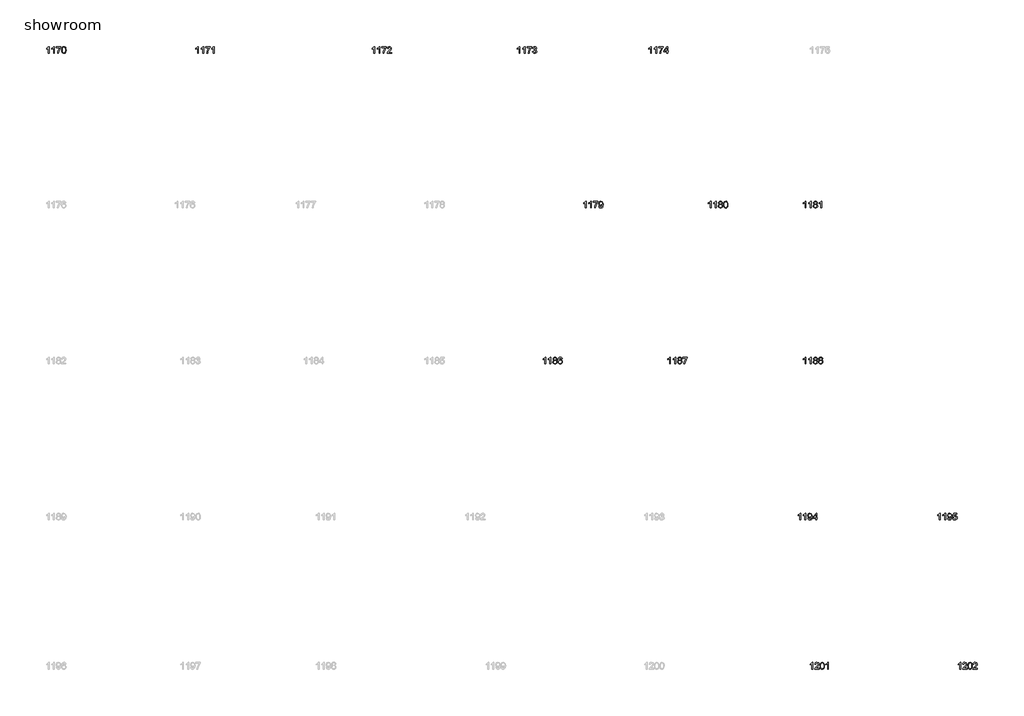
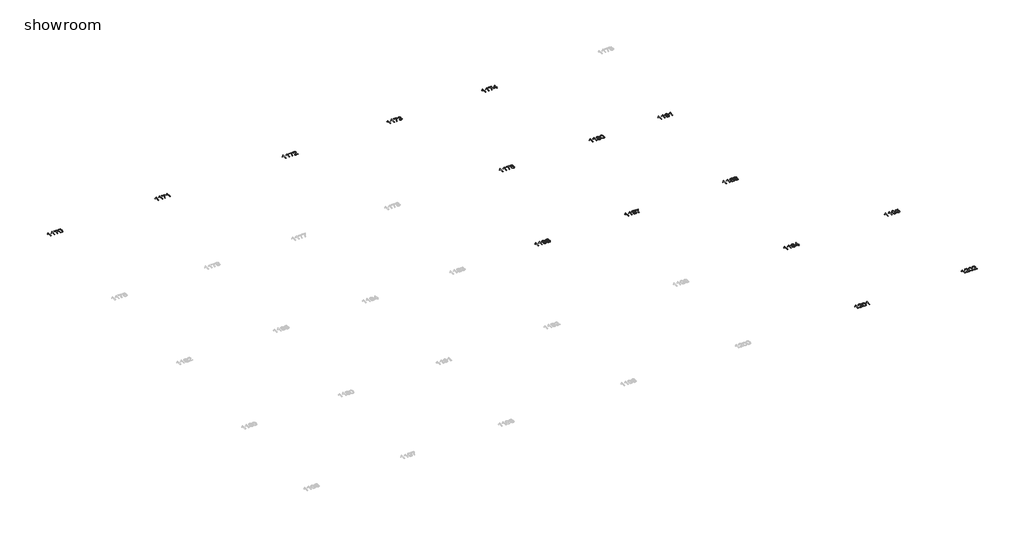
# One storey, part 3 of 5: 15 proxies.
"""IFC4 building model written with IfcOpenShell, lengths in millimetres."""

import ifcopenshell
import ifcopenshell.guid

model = None  # the IFC model being written
_history = None  # IfcOwnerHistory: only IFC2X3 demands one
_inside = {}  # id of a spatial element -> (the spatial element, [elements in it])
_under = {}  # id of a project, library or spatial element -> (it, [spatial elements below it])
_declared = {}  # id of a project -> (the project, [libraries it declares])
_typed = {}  # id of a type object -> (the type object, [elements of that type])
_made_of = {}  # id of a material, layer set ... -> (it, [elements and type objects made of it])


def new_model(schema):
    """Start an empty IFC model of exactly this schema.

    Asked for "IFC4X3", IfcOpenShell would pick the latest addendum, in which some entities
    have other attributes; the version numbers below select the first issue.
    IFC2X3 requires an IfcOwnerHistory on every rooted entity: one is made here for all.
    """
    global model, _history
    if schema == "IFC4X3":
        model = ifcopenshell.file(schema_version=(4, 3, 0, 0))
    else:
        model = ifcopenshell.file(schema=schema)
    _inside.clear()
    _under.clear()
    _declared.clear()
    _typed.clear()
    _made_of.clear()
    _history = None
    if model.schema == "IFC2X3":
        org = make("IfcOrganization", Name="unknown")
        user = make(
            "IfcPersonAndOrganization",
            ThePerson=make("IfcPerson", FamilyName="unknown"),
            TheOrganization=org,
        )
        app = make(
            "IfcApplication",
            ApplicationDeveloper=org,
            Version="unknown",
            ApplicationFullName="unknown",
            ApplicationIdentifier="unknown",
        )
        _history = make(
            "IfcOwnerHistory",
            OwningUser=user,
            OwningApplication=app,
            ChangeAction="ADDED",
            CreationDate=0,
        )
    return model


def make(cls, **values):
    """One entity of the class cls with the attributes given. An attribute that is None is left unset."""
    return model.create_entity(
        cls, **{name: value for name, value in values.items() if value is not None}
    )


def rooted(cls, **values):
    """An entity with a GlobalId (a new one), such as an element, a storey or a relation."""
    return make(cls, GlobalId=ifcopenshell.guid.new(), OwnerHistory=_history, **values)


def si_unit(unit_type, name, prefix=None):
    """IfcSIUnit, for example si_unit("LENGTHUNIT", "METRE", prefix="MILLI")."""
    return make("IfcSIUnit", UnitType=unit_type, Prefix=prefix, Name=name)


def assignment(units):
    """IfcUnitAssignment: the units of a project."""
    return None if units is None else make("IfcUnitAssignment", Units=units)


def point(xyz):
    """IfcCartesianPoint."""
    return None if xyz is None else make("IfcCartesianPoint", Coordinates=xyz)


def direction(xyz):
    """IfcDirection."""
    return None if xyz is None else make("IfcDirection", DirectionRatios=xyz)


def frame(location, z_axis=None, x_axis=None):
    """IfcAxis2Placement3D, a coordinate frame: its origin and axes. An axis left out is left unset."""
    return make(
        "IfcAxis2Placement3D",
        Location=point(location),
        Axis=direction(z_axis),
        RefDirection=direction(x_axis),
    )


def origin():
    """The frame at (0, 0, 0) with its axes left unset."""
    return frame((0.0, 0.0, 0.0))


def origin_with_axes():
    """The frame at (0, 0, 0) with the z axis (0, 0, 1) and the x axis (1, 0, 0) written out."""
    return frame((0.0, 0.0, 0.0), z_axis=(0.0, 0.0, 1.0), x_axis=(1.0, 0.0, 0.0))


def place(relative_to, where):
    """IfcLocalPlacement: puts the frame where relative to a parent placement (None: the world)."""
    return make(
        "IfcLocalPlacement", PlacementRelTo=relative_to, RelativePlacement=where
    )


def context(
    kind, dimensions, precision=None, world=None, true_north=None, identifier=None
):
    """IfcGeometricRepresentationContext, for example the 3D "Model" context."""
    return make(
        "IfcGeometricRepresentationContext",
        ContextIdentifier=identifier,
        ContextType=kind,
        CoordinateSpaceDimension=dimensions,
        Precision=precision,
        WorldCoordinateSystem=world,
        TrueNorth=true_north,
    )


def project(units=None, contexts=None):
    """IfcProject with its units and contexts."""
    return rooted(
        "IfcProject",
        Name="project",
        RepresentationContexts=contexts,
        UnitsInContext=assignment(units),
    )


def spatial(cls, under=None, at=None, **own):
    """A site, building, storey or space (cls), placed at a placement, below another one or the project."""
    s = rooted(cls, ObjectPlacement=at, **own)
    if under is not None:
        _under.setdefault(under.id(), (under, []))[1].append(s)
    return s


def polyline(points):
    """IfcPolyline through the points."""
    return make("IfcPolyline", Points=[point(p) for p in points])


def outline(outer, holes=None, kind="AREA"):
    """IfcArbitraryClosedProfileDef: a profile drawn as a closed curve; with holes, ...WithVoids."""
    if holes is None:
        return make("IfcArbitraryClosedProfileDef", ProfileType=kind, OuterCurve=outer)
    return make(
        "IfcArbitraryProfileDefWithVoids",
        ProfileType=kind,
        OuterCurve=outer,
        InnerCurves=holes,
    )


def extrude(swept, where, along, depth):
    """IfcExtrudedAreaSolid: the profile swept, set in the frame where, extruded along a direction by depth."""
    return make(
        "IfcExtrudedAreaSolid",
        SweptArea=swept,
        Position=where,
        ExtrudedDirection=direction(along),
        Depth=depth,
    )


def shape(context_of_items, identifier, shape_type, items):
    """IfcShapeRepresentation: the items that make up one representation, for example the "Body"."""
    return make(
        "IfcShapeRepresentation",
        ContextOfItems=context_of_items,
        RepresentationIdentifier=identifier,
        RepresentationType=shape_type,
        Items=items,
    )


def made_of(thing, what):
    """Note that an element or type object is made of a material, layer set ...; save() writes the relation."""
    if what is not None:
        _made_of.setdefault(what.id(), (what, []))[1].append(thing)
    return thing


def element(
    cls,
    number,
    at=None,
    inside=None,
    cuts=None,
    type_object=None,
    material=None,
    context=None,
    identifier="Body",
    shape_type=None,
    held_by="IfcProductDefinitionShape",
    body=None,
    shapes=None,
    **own,
):
    """One element of the class cls, such as IfcWall. Its Tag is "e" and its number.

    at: its placement. inside: the storey or other place that contains it. cuts: it is an
    opening in that element (IfcRelVoidsElement). A single representation is given by context,
    identifier, shape_type and body (its items); several are given by shapes. held_by: the class
    of the entity that holds the representations. save() writes the other relations.
    """
    e = rooted(cls, Tag="e%d" % number, ObjectPlacement=at, **own)
    if body is not None:
        shapes = [shape(context, identifier, shape_type, body)]
    if shapes is not None:
        e.Representation = make(held_by, Representations=shapes)
    if inside is not None:
        _inside.setdefault(inside.id(), (inside, []))[1].append(e)
    if cuts is not None:
        rooted(
            "IfcRelVoidsElement", RelatingBuildingElement=cuts, RelatedOpeningElement=e
        )
    if type_object is not None:
        _typed.setdefault(type_object.id(), (type_object, []))[1].append(e)
    return made_of(e, material)


def aggregate(whole, parts):
    """IfcRelAggregates: a whole, such as a stair, and the parts it consists of."""
    return rooted("IfcRelAggregates", RelatingObject=whole, RelatedObjects=parts)


def save(model, path):
    """Write the relations noted so far, then the file.

    IfcRelAggregates (storeys below a building ...), IfcRelContainedInSpatialStructure (elements
    in a storey), IfcRelDefinesByType, IfcRelAssociatesMaterial and IfcRelDeclares: one each for
    every whole, place, type object, material and project.
    """
    for whole, parts in _under.values():
        aggregate(whole, parts)
    for where, things in _inside.values():
        rooted(
            "IfcRelContainedInSpatialStructure",
            RelatedElements=things,
            RelatingStructure=where,
        )
    for kind, things in _typed.values():
        rooted("IfcRelDefinesByType", RelatedObjects=things, RelatingType=kind)
    for what, things in _made_of.values():
        rooted("IfcRelAssociatesMaterial", RelatedObjects=things, RelatingMaterial=what)
    for by, libraries in _declared.values():
        rooted("IfcRelDeclares", RelatingContext=by, RelatedDefinitions=libraries)
    model.write(path)


model = new_model("IFC4")

# Units and contexts
model_context = context("Model", 3, world=origin())
ifc_project = project(units=[si_unit("LENGTHUNIT", "METRE", prefix="MILLI")], contexts=[model_context])

# Site, building, storey
site = spatial("IfcSite", under=ifc_project)
building = spatial("IfcBuilding", under=site)
storey = spatial("IfcBuildingStorey", under=building, Name="showroom", Elevation=0.0)

# Proxies
placement = place(None, origin())
element("IfcBuildingElementProxy", 1, Name="100mm Arial", ObjectType="100mm Arial", at=placement, inside=storey, context=model_context, shape_type="SweptSolid", body=[
    extrude(outline(polyline([(-1708.1109609, 1535.1020807), (-1720.6679996, 1535.1020807), (-1720.6679996, 1613.3873692), (-1732.5628508, 1604.9138206), (-1745.7820772, 1598.5739876), (-1745.7820772, 1610.4443133), (-1727.3757147, 1622.1920117), (-1716.2043648, 1635.5583908), (-1708.1109609, 1635.5583908), (-1708.1109609, 1535.1020807)])), origin_with_axes(), (0.0, 0.0, 1.0), 2.0),
    extrude(outline(polyline([(-1631.1990984, 1535.1020807), (-1643.7561372, 1535.1020807), (-1643.7561372, 1613.3873692), (-1655.6509884, 1604.9138206), (-1668.8702147, 1598.5739876), (-1668.8702147, 1610.4443133), (-1650.4638522, 1622.1920117), (-1639.2925023, 1635.5583908), (-1631.1990984, 1635.5583908), (-1631.1990984, 1535.1020807)])), origin_with_axes(), (0.0, 0.0, 1.0), 2.0),
    extrude(outline(polyline([(-1601.3761313, 1621.4317222), (-1601.3761313, 1633.988761), (-1535.4516778, 1633.988761), (-1535.4516778, 1623.8352179), (-1554.1523459, 1596.8204167), (-1568.4629555, 1562.3989247), (-1573.1227941, 1535.1020807), (-1585.6798329, 1535.1020807), (-1580.6889005, 1563.4289943), (-1566.9914275, 1595.4469906), (-1548.0087166, 1621.4317222), (-1601.3761313, 1621.4317222)])), origin_with_axes(), (0.0, 0.0, 1.0), 2.0),
    extrude(outline(polyline([(-1524.4642689, 1584.5208954), (-1520.7731862, 1613.4241574), (-1509.8103027, 1630.0892118), (-1491.5020421, 1635.5583908), (-1476.8358132, 1632.3210293), (-1466.7067956, 1622.9890893), (-1460.8206837, 1608.1266567), (-1458.5398153, 1584.5208954), (-1462.1941098, 1555.7402606), (-1473.1202051, 1539.038418), (-1481.3515647, 1534.9089426), (-1491.5020421, 1533.5324508), (-1504.5495902, 1535.9236838), (-1514.4578786, 1543.0973827), (-1521.9626713, 1560.0873995), (-1524.4642689, 1584.5208954)]), holes=[polyline([(-1511.9072301, 1584.5454208), (-1510.4357021, 1564.7932234), (-1506.0211182, 1553.3612904), (-1499.4482932, 1547.9074398), (-1491.5020421, 1546.0894896), (-1483.555791, 1547.9135712), (-1476.982966, 1553.3858158), (-1472.5683821, 1564.8238802), (-1471.0968541, 1584.5454208), (-1472.5193312, 1603.8530942), (-1476.7867623, 1615.373932), (-1483.3473246, 1621.094497), (-1491.6491949, 1623.0013521), (-1499.5096069, 1621.3213576), (-1505.8249145, 1616.2813743), (-1510.3866512, 1604.0431666), (-1511.9072301, 1584.5454208)])]), origin_with_axes(), (0.0, 0.0, 1.0), 2.0),
])
element("IfcBuildingElementProxy", 2, Name="100mm Arial", ObjectType="100mm Arial", at=placement, inside=storey, context=model_context, shape_type="SweptSolid", body=[
    extrude(outline(polyline([(491.8890391, 1535.1020807), (479.3320004, 1535.1020807), (479.3320004, 1613.3873692), (467.4371492, 1604.9138206), (454.2179228, 1598.5739876), (454.2179228, 1610.4443133), (472.6242853, 1622.1920117), (483.7956352, 1635.5583908), (491.8890391, 1635.5583908), (491.8890391, 1535.1020807)])), origin_with_axes(), (0.0, 0.0, 1.0), 2.0),
    extrude(outline(polyline([(568.8009016, 1535.1020807), (556.2438628, 1535.1020807), (556.2438628, 1613.3873692), (544.3490116, 1604.9138206), (531.1297853, 1598.5739876), (531.1297853, 1610.4443133), (549.5361478, 1622.1920117), (560.7074977, 1635.5583908), (568.8009016, 1635.5583908), (568.8009016, 1535.1020807)])), origin_with_axes(), (0.0, 0.0, 1.0), 2.0),
    extrude(outline(polyline([(598.6238687, 1621.4317222), (598.6238687, 1633.988761), (664.5483222, 1633.988761), (664.5483222, 1623.8352179), (645.8476541, 1596.8204167), (631.5370445, 1562.3989247), (626.8772059, 1535.1020807), (614.3201671, 1535.1020807), (619.3110995, 1563.4289943), (633.0085725, 1595.4469906), (651.9912834, 1621.4317222), (598.6238687, 1621.4317222)])), origin_with_axes(), (0.0, 0.0, 1.0), 2.0),
    extrude(outline(polyline([(722.6246265, 1535.1020807), (710.0675877, 1535.1020807), (710.0675877, 1613.3873692), (698.1727366, 1604.9138206), (684.9535102, 1598.5739876), (684.9535102, 1610.4443133), (703.3598727, 1622.1920117), (714.5312226, 1635.5583908), (722.6246265, 1635.5583908), (722.6246265, 1535.1020807)])), origin_with_axes(), (0.0, 0.0, 1.0), 2.0),
])
element("IfcBuildingElementProxy", 3, Name="100mm Arial", ObjectType="100mm Arial", at=placement, inside=storey, context=model_context, shape_type="SweptSolid", body=[
    extrude(outline(polyline([(3091.8890391, 1535.1020807), (3079.3320004, 1535.1020807), (3079.3320004, 1613.3873692), (3067.4371492, 1604.9138206), (3054.2179228, 1598.5739876), (3054.2179228, 1610.4443133), (3072.6242853, 1622.1920117), (3083.7956352, 1635.5583908), (3091.8890391, 1635.5583908), (3091.8890391, 1535.1020807)])), origin_with_axes(), (0.0, 0.0, 1.0), 2.0),
    extrude(outline(polyline([(3168.8009016, 1535.1020807), (3156.2438628, 1535.1020807), (3156.2438628, 1613.3873692), (3144.3490116, 1604.9138206), (3131.1297853, 1598.5739876), (3131.1297853, 1610.4443133), (3149.5361478, 1622.1920117), (3160.7074977, 1635.5583908), (3168.8009016, 1635.5583908), (3168.8009016, 1535.1020807)])), origin_with_axes(), (0.0, 0.0, 1.0), 2.0),
    extrude(outline(polyline([(3198.6238687, 1621.4317222), (3198.6238687, 1633.988761), (3264.5483222, 1633.988761), (3264.5483222, 1623.8352179), (3245.8476541, 1596.8204167), (3231.5370445, 1562.3989247), (3226.8772059, 1535.1020807), (3214.3201671, 1535.1020807), (3219.3110995, 1563.4289943), (3233.0085725, 1595.4469906), (3251.9912834, 1621.4317222), (3198.6238687, 1621.4317222)])), origin_with_axes(), (0.0, 0.0, 1.0), 2.0),
    extrude(outline(polyline([(3339.8905548, 1547.6591194), (3339.8905548, 1535.1020807), (3273.9661013, 1535.1020807), (3275.3150019, 1543.7595703), (3282.942422, 1557.0891613), (3298.6632459, 1571.6450255), (3320.3437581, 1592.5652483), (3325.7638862, 1606.7900188), (3320.6503265, 1618.3047252), (3307.29621, 1623.0013521), (3293.3780079, 1618.4150898), (3288.0927699, 1605.7354237), (3275.5357311, 1607.3050536), (3278.5799546, 1619.4512908), (3285.1619767, 1628.3233782), (3294.9384407, 1633.7496377), (3307.5659902, 1635.5583908), (3320.2855101, 1633.5473026), (3330.0435801, 1627.5140379), (3336.2515887, 1618.500929), (3338.320925, 1607.5503083), (3336.0891075, 1595.6431943), (3328.670154, 1583.3314102), (3310.6807244, 1566.1267956), (3296.2352247, 1554.0480034), (3290.569842, 1547.6591194), (3339.8905548, 1547.6591194)])), origin_with_axes(), (0.0, 0.0, 1.0), 2.0),
])
element("IfcBuildingElementProxy", 4, Name="100mm Arial", ObjectType="100mm Arial", at=placement, inside=storey, context=model_context, shape_type="SweptSolid", body=[
    extrude(outline(polyline([(5231.8890391, 1535.1020807), (5219.3320004, 1535.1020807), (5219.3320004, 1613.3873692), (5207.4371492, 1604.9138206), (5194.2179228, 1598.5739876), (5194.2179228, 1610.4443133), (5212.6242853, 1622.1920117), (5223.7956352, 1635.5583908), (5231.8890391, 1635.5583908), (5231.8890391, 1535.1020807)])), origin_with_axes(), (0.0, 0.0, 1.0), 2.0),
    extrude(outline(polyline([(5308.8009016, 1535.1020807), (5296.2438628, 1535.1020807), (5296.2438628, 1613.3873692), (5284.3490116, 1604.9138206), (5271.1297853, 1598.5739876), (5271.1297853, 1610.4443133), (5289.5361478, 1622.1920117), (5300.7074977, 1635.5583908), (5308.8009016, 1635.5583908), (5308.8009016, 1535.1020807)])), origin_with_axes(), (0.0, 0.0, 1.0), 2.0),
    extrude(outline(polyline([(5338.6238687, 1621.4317222), (5338.6238687, 1633.988761), (5404.5483222, 1633.988761), (5404.5483222, 1623.8352179), (5385.8476541, 1596.8204167), (5371.5370445, 1562.3989247), (5366.8772059, 1535.1020807), (5354.3201671, 1535.1020807), (5359.3110995, 1563.4289943), (5373.0085725, 1595.4469906), (5391.9912834, 1621.4317222), (5338.6238687, 1621.4317222)])), origin_with_axes(), (0.0, 0.0, 1.0), 2.0),
    extrude(outline(polyline([(5415.5357311, 1561.7857881), (5428.0927699, 1563.3554179), (5435.0212141, 1550.1361915), (5447.9829231, 1546.0894896), (5456.5913618, 1547.4813098), (5463.2377632, 1551.6567705), (5468.9031459, 1565.4400825), (5463.2868141, 1578.426317), (5449.0129927, 1583.5644022), (5440.2083503, 1582.1909761), (5441.6063018, 1594.7480148), (5443.6173901, 1594.600862), (5457.866686, 1598.2061056), (5462.6123638, 1602.7801051), (5464.1942563, 1609.2916164), (5459.6079941, 1619.1140656), (5447.7867194, 1623.0013521), (5435.8182918, 1619.0772774), (5429.6623997, 1607.3050536), (5417.105361, 1608.8746834), (5420.802575, 1620.1502666), (5427.3815314, 1628.5686329), (5436.3823775, 1633.8109513), (5447.345261, 1635.5583908), (5462.4897364, 1632.1125628), (5473.0847379, 1622.6947837), (5476.7512951, 1610.0273804), (5473.2686789, 1598.4513602), (5462.967983, 1590.1372272), (5476.6531933, 1581.5533139), (5481.4601847, 1565.2193533), (5479.056689, 1552.9811456), (5471.8462018, 1542.7540262), (5460.9630262, 1535.8378447), (5447.5414647, 1533.5324508), (5435.4013589, 1535.5006195), (5425.5175959, 1541.4051255), (5418.644334, 1550.4366285), (5415.5357311, 1561.7857881)])), origin_with_axes(), (0.0, 0.0, 1.0), 2.0),
])
element("IfcBuildingElementProxy", 5, Name="100mm Arial", ObjectType="100mm Arial", at=placement, inside=storey, context=model_context, shape_type="SweptSolid", body=[
    extrude(outline(polyline([(7171.8890391, 1535.1020807), (7159.3320004, 1535.1020807), (7159.3320004, 1613.3873692), (7147.4371492, 1604.9138206), (7134.2179228, 1598.5739876), (7134.2179228, 1610.4443133), (7152.6242853, 1622.1920117), (7163.7956352, 1635.5583908), (7171.8890391, 1635.5583908), (7171.8890391, 1535.1020807)])), origin_with_axes(), (0.0, 0.0, 1.0), 2.0),
    extrude(outline(polyline([(7248.8009016, 1535.1020807), (7236.2438628, 1535.1020807), (7236.2438628, 1613.3873692), (7224.3490116, 1604.9138206), (7211.1297853, 1598.5739876), (7211.1297853, 1610.4443133), (7229.5361478, 1622.1920117), (7240.7074977, 1635.5583908), (7248.8009016, 1635.5583908), (7248.8009016, 1535.1020807)])), origin_with_axes(), (0.0, 0.0, 1.0), 2.0),
    extrude(outline(polyline([(7278.6238687, 1621.4317222), (7278.6238687, 1633.988761), (7344.5483222, 1633.988761), (7344.5483222, 1623.8352179), (7325.8476541, 1596.8204167), (7311.5370445, 1562.3989247), (7306.8772059, 1535.1020807), (7294.3201671, 1535.1020807), (7299.3110995, 1563.4289943), (7313.0085725, 1595.4469906), (7331.9912834, 1621.4317222), (7278.6238687, 1621.4317222)])), origin_with_axes(), (0.0, 0.0, 1.0), 2.0),
    extrude(outline(polyline([(7396.3461071, 1535.1020807), (7396.3461071, 1558.6465284), (7350.8268416, 1558.6465284), (7350.8268416, 1571.2035671), (7399.4853668, 1633.988761), (7408.9031459, 1633.988761), (7408.9031459, 1571.2035671), (7421.4601847, 1571.2035671), (7421.4601847, 1558.6465284), (7408.9031459, 1558.6465284), (7408.9031459, 1535.1020807), (7396.3461071, 1535.1020807)]), holes=[polyline([(7396.3461071, 1571.2035671), (7396.3461071, 1610.0028549), (7366.2778854, 1571.2035671), (7396.3461071, 1571.2035671)])]), origin_with_axes(), (0.0, 0.0, 1.0), 2.0),
])
element("IfcBuildingElementProxy", 6, Name="100mm Arial", ObjectType="100mm Arial", at=placement, inside=storey, context=model_context, shape_type="SweptSolid", body=[
    extrude(outline(polyline([(6210.3304099, -744.8979193), (6197.7733711, -744.8979193), (6197.7733711, -666.6126308), (6185.8785199, -675.0861794), (6172.6592936, -681.4260124), (6172.6592936, -669.5556867), (6191.0656561, -657.8079883), (6202.237006, -644.4416092), (6210.3304099, -644.4416092), (6210.3304099, -744.8979193)])), origin_with_axes(), (0.0, 0.0, 1.0), 2.0),
    extrude(outline(polyline([(6287.2422723, -744.8979193), (6274.6852336, -744.8979193), (6274.6852336, -666.6126308), (6262.7903824, -675.0861794), (6249.571156, -681.4260124), (6249.571156, -669.5556867), (6267.9775185, -657.8079883), (6279.1488684, -644.4416092), (6287.2422723, -644.4416092), (6287.2422723, -744.8979193)])), origin_with_axes(), (0.0, 0.0, 1.0), 2.0),
    extrude(outline(polyline([(6317.0652394, -658.5682778), (6317.0652394, -646.011239), (6382.9896929, -646.011239), (6382.9896929, -656.1647821), (6364.2890249, -683.1795833), (6349.9784152, -717.6010753), (6345.3185766, -744.8979193), (6332.7615379, -744.8979193), (6337.7524703, -716.5710057), (6351.4499432, -684.5530094), (6370.4326542, -658.5682778), (6317.0652394, -658.5682778)])), origin_with_axes(), (0.0, 0.0, 1.0), 2.0),
    extrude(outline(polyline([(6395.5467317, -719.7838418), (6408.1037705, -718.2142119), (6413.7446277, -730.1949023), (6424.4377311, -733.9105104), (6434.6035369, -731.5192774), (6441.4951929, -725.1303935), (6445.6032085, -714.2165609), (6447.418093, -699.6484339), (6447.3445166, -697.1958873), (6437.3013382, -706.7117682), (6423.5302888, -710.3660627), (6412.0799617, -708.1342453), (6402.5487524, -701.438793), (6396.1200145, -691.0951775), (6393.9771019, -677.9188707), (6396.2242477, -664.3072369), (6402.9656853, -653.6386591), (6413.0916372, -646.7408716), (6425.4923261, -644.4416092), (6443.3836538, -649.690059), (6455.6954379, -664.6505934), (6459.9015554, -692.7567779), (6455.7077007, -723.2541953), (6450.4929734, -733.2452571), (6443.236501, -740.5323863), (6434.2509833, -744.9837585), (6423.8491199, -746.4675492), (6413.113097, -744.717044), (6404.5475779, -739.4655285), (6398.5572327, -731.0440965), (6395.5467317, -719.7838418)]), holes=[polyline([(6447.3445166, -677.6245651), (6445.9894846, -669.1142283), (6441.9243886, -662.5659288), (6435.6152124, -658.3904682), (6427.5279398, -656.9986479), (6419.1402303, -658.4977671), (6412.4202526, -662.9951245), (6408.0056686, -669.8775835), (6406.5341406, -678.5320074), (6407.9259609, -686.2912518), (6412.1014215, -692.4502095), (6418.6558524, -696.4693203), (6427.1845833, -697.8090239), (6441.6668712, -692.4502095), (6445.9251053, -686.0643912), (6447.3445166, -677.6245651)])]), origin_with_axes(), (0.0, 0.0, 1.0), 2.0),
])
element("IfcBuildingElementProxy", 7, Name="100mm Arial", ObjectType="100mm Arial", at=placement, inside=storey, context=model_context, shape_type="SweptSolid", body=[
    extrude(outline(polyline([(8050.3304099, -744.8979193), (8037.7733711, -744.8979193), (8037.7733711, -666.6126308), (8025.8785199, -675.0861794), (8012.6592936, -681.4260124), (8012.6592936, -669.5556867), (8031.0656561, -657.8079883), (8042.237006, -644.4416092), (8050.3304099, -644.4416092), (8050.3304099, -744.8979193)])), origin_with_axes(), (0.0, 0.0, 1.0), 2.0),
    extrude(outline(polyline([(8127.2422723, -744.8979193), (8114.6852336, -744.8979193), (8114.6852336, -666.6126308), (8102.7903824, -675.0861794), (8089.571156, -681.4260124), (8089.571156, -669.5556867), (8107.9775185, -657.8079883), (8119.1488684, -644.4416092), (8127.2422723, -644.4416092), (8127.2422723, -744.8979193)])), origin_with_axes(), (0.0, 0.0, 1.0), 2.0),
    extrude(outline(polyline([(8175.3612373, -689.5684673), (8163.9201073, -681.769369), (8160.2044991, -669.6292631), (8162.2278501, -659.8129452), (8168.297903, -651.7011472), (8177.7340762, -646.2564937), (8189.8557879, -644.4416092), (8202.0510761, -646.2994133), (8211.6098766, -651.8728255), (8217.7902941, -660.1133822), (8219.8504333, -669.9726196), (8216.183876, -681.8061572), (8205.061577, -689.5684673), (8218.4156935, -699.415442), (8222.9896929, -715.6635634), (8220.7210873, -727.6687792), (8213.9152704, -737.5893304), (8203.4061081, -744.2479945), (8190.0274662, -746.4675492), (8176.6488243, -744.2387974), (8166.139662, -737.5525422), (8159.333845, -727.5369548), (8157.0652394, -715.3202069), (8161.8231799, -698.6919407), (8175.3612373, -689.5684673)]), holes=[polyline([(8169.6222782, -714.8787485), (8171.7192056, -724.3333158), (8179.1381591, -731.4089128), (8190.125568, -733.9105104), (8198.6726931, -732.5953323), (8205.0861025, -728.6497979), (8210.4326542, -715.271156), (8204.9144242, -701.6349967), (8198.353862, -697.5882947), (8189.7086351, -696.2393941), (8181.2810717, -697.5699006), (8174.9320416, -701.5614203), (8169.6222782, -714.8787485)]), polyline([(8172.7615379, -669.9971451), (8177.21291, -679.8563826), (8190.174619, -683.6823553), (8202.8788105, -679.880908), (8207.2933945, -670.5612308), (8202.7316577, -660.9104598), (8190.0274662, -656.9986479), (8177.2864864, -660.8246207), (8172.7615379, -669.9971451)])]), origin_with_axes(), (0.0, 0.0, 1.0), 2.0),
    extrude(outline(polyline([(8233.9771019, -695.4791046), (8237.6681846, -666.5758426), (8248.631068, -649.9107882), (8266.9393286, -644.4416092), (8281.6055575, -647.6789707), (8291.7345751, -657.0109107), (8297.620687, -671.8733433), (8299.9015554, -695.4791046), (8296.2472609, -724.2597394), (8285.3211657, -740.961582), (8277.089806, -745.0910574), (8266.9393286, -746.4675492), (8253.8917805, -744.0763162), (8243.9834921, -736.9026173), (8236.4786994, -719.9126005), (8233.9771019, -695.4791046)]), holes=[polyline([(8246.5341406, -695.4545792), (8248.0056686, -715.2067766), (8252.4202526, -726.6387096), (8258.9930775, -732.0925602), (8266.9393286, -733.9105104), (8274.8855797, -732.0864288), (8281.4584047, -726.6141842), (8285.8729887, -715.1761198), (8287.3445166, -695.4545792), (8285.9220396, -676.1469058), (8281.6546084, -664.626068), (8275.0940462, -658.905503), (8266.7921758, -656.9986479), (8258.9317639, -658.6786424), (8252.6164563, -663.7186257), (8248.0547195, -675.9568334), (8246.5341406, -695.4545792)])]), origin_with_axes(), (0.0, 0.0, 1.0), 2.0),
])
element("IfcBuildingElementProxy", 8, Name="100mm Arial", ObjectType="100mm Arial", at=placement, inside=storey, context=model_context, shape_type="SweptSolid", body=[
    extrude(outline(polyline([(9450.3304099, -744.8979193), (9437.7733711, -744.8979193), (9437.7733711, -666.6126308), (9425.8785199, -675.0861794), (9412.6592936, -681.4260124), (9412.6592936, -669.5556867), (9431.0656561, -657.8079883), (9442.237006, -644.4416092), (9450.3304099, -644.4416092), (9450.3304099, -744.8979193)])), origin_with_axes(), (0.0, 0.0, 1.0), 2.0),
    extrude(outline(polyline([(9527.2422723, -744.8979193), (9514.6852336, -744.8979193), (9514.6852336, -666.6126308), (9502.7903824, -675.0861794), (9489.571156, -681.4260124), (9489.571156, -669.5556867), (9507.9775185, -657.8079883), (9519.1488684, -644.4416092), (9527.2422723, -644.4416092), (9527.2422723, -744.8979193)])), origin_with_axes(), (0.0, 0.0, 1.0), 2.0),
    extrude(outline(polyline([(9575.3612373, -689.5684673), (9563.9201073, -681.769369), (9560.2044991, -669.6292631), (9562.2278501, -659.8129452), (9568.297903, -651.7011472), (9577.7340762, -646.2564937), (9589.8557879, -644.4416092), (9602.0510761, -646.2994133), (9611.6098766, -651.8728255), (9617.7902941, -660.1133822), (9619.8504333, -669.9726196), (9616.183876, -681.8061572), (9605.061577, -689.5684673), (9618.4156935, -699.415442), (9622.9896929, -715.6635634), (9620.7210873, -727.6687792), (9613.9152704, -737.5893304), (9603.4061081, -744.2479945), (9590.0274662, -746.4675492), (9576.6488243, -744.2387974), (9566.139662, -737.5525422), (9559.333845, -727.5369548), (9557.0652394, -715.3202069), (9561.8231799, -698.6919407), (9575.3612373, -689.5684673)]), holes=[polyline([(9569.6222782, -714.8787485), (9571.7192056, -724.3333158), (9579.1381591, -731.4089128), (9590.125568, -733.9105104), (9598.6726931, -732.5953323), (9605.0861025, -728.6497979), (9610.4326542, -715.271156), (9604.9144242, -701.6349967), (9598.353862, -697.5882947), (9589.7086351, -696.2393941), (9581.2810717, -697.5699006), (9574.9320416, -701.5614203), (9569.6222782, -714.8787485)]), polyline([(9572.7615379, -669.9971451), (9577.21291, -679.8563826), (9590.174619, -683.6823553), (9602.8788105, -679.880908), (9607.2933945, -670.5612308), (9602.7316577, -660.9104598), (9590.0274662, -656.9986479), (9577.2864864, -660.8246207), (9572.7615379, -669.9971451)])]), origin_with_axes(), (0.0, 0.0, 1.0), 2.0),
    extrude(outline(polyline([(9681.0659973, -744.8979193), (9668.5089585, -744.8979193), (9668.5089585, -666.6126308), (9656.6141073, -675.0861794), (9643.3948809, -681.4260124), (9643.3948809, -669.5556867), (9661.8012434, -657.8079883), (9672.9725934, -644.4416092), (9681.0659973, -644.4416092), (9681.0659973, -744.8979193)])), origin_with_axes(), (0.0, 0.0, 1.0), 2.0),
])
element("IfcBuildingElementProxy", 9, Name="100mm Arial", ObjectType="100mm Arial", at=placement, inside=storey, context=model_context, shape_type="SweptSolid", body=[
    extrude(outline(polyline([(5610.3304099, -3044.8979193), (5597.7733711, -3044.8979193), (5597.7733711, -2966.6126308), (5585.8785199, -2975.0861794), (5572.6592936, -2981.4260124), (5572.6592936, -2969.5556867), (5591.0656561, -2957.8079883), (5602.237006, -2944.4416092), (5610.3304099, -2944.4416092), (5610.3304099, -3044.8979193)])), origin_with_axes(), (0.0, 0.0, 1.0), 2.0),
    extrude(outline(polyline([(5687.2422723, -3044.8979193), (5674.6852336, -3044.8979193), (5674.6852336, -2966.6126308), (5662.7903824, -2975.0861794), (5649.571156, -2981.4260124), (5649.571156, -2969.5556867), (5667.9775185, -2957.8079883), (5679.1488684, -2944.4416092), (5687.2422723, -2944.4416092), (5687.2422723, -3044.8979193)])), origin_with_axes(), (0.0, 0.0, 1.0), 2.0),
    extrude(outline(polyline([(5735.3612373, -2989.5684673), (5723.9201073, -2981.769369), (5720.2044991, -2969.6292631), (5722.2278501, -2959.8129452), (5728.297903, -2951.7011472), (5737.7340762, -2946.2564937), (5749.8557879, -2944.4416092), (5762.0510761, -2946.2994133), (5771.6098766, -2951.8728255), (5777.7902941, -2960.1133822), (5779.8504333, -2969.9726196), (5776.183876, -2981.8061572), (5765.061577, -2989.5684673), (5778.4156935, -2999.415442), (5782.9896929, -3015.6635634), (5780.7210873, -3027.6687792), (5773.9152704, -3037.5893304), (5763.4061081, -3044.2479945), (5750.0274662, -3046.4675492), (5736.6488243, -3044.2387974), (5726.139662, -3037.5525422), (5719.333845, -3027.5369548), (5717.0652394, -3015.3202069), (5721.8231799, -2998.6919407), (5735.3612373, -2989.5684673)]), holes=[polyline([(5729.6222782, -3014.8787485), (5731.7192056, -3024.3333158), (5739.1381591, -3031.4089128), (5750.125568, -3033.9105104), (5758.6726931, -3032.5953323), (5765.0861025, -3028.6497979), (5770.4326542, -3015.271156), (5764.9144242, -3001.6349967), (5758.353862, -2997.5882947), (5749.7086351, -2996.2393941), (5741.2810717, -2997.5699006), (5734.9320416, -3001.5614203), (5729.6222782, -3014.8787485)]), polyline([(5732.7615379, -2969.9971451), (5737.21291, -2979.8563826), (5750.174619, -2983.6823553), (5762.8788105, -2979.880908), (5767.2933945, -2970.5612308), (5762.7316577, -2960.9104598), (5750.0274662, -2956.9986479), (5737.2864864, -2960.8246207), (5732.7615379, -2969.9971451)])]), origin_with_axes(), (0.0, 0.0, 1.0), 2.0),
    extrude(outline(polyline([(5858.3319256, -2971.1253166), (5845.7748868, -2972.6949464), (5841.0169463, -2962.2225723), (5828.4353821, -2956.9986479), (5817.1046166, -2960.0398058), (5808.5329661, -2971.4564104), (5804.9645108, -2993.8358984), (5816.0377588, -2983.8172454), (5829.7597573, -2980.5430956), (5841.3603028, -2982.7810444), (5851.096913, -2989.4948909), (5857.7003948, -2999.7526672), (5859.9015554, -3012.6224056), (5855.7567516, -3029.9496476), (5844.3524097, -3042.2123808), (5827.8958218, -3046.4675492), (5813.6495916, -3043.6471205), (5802.3034977, -3035.1858347), (5794.8814784, -3020.2498257), (5792.407472, -2998.0052277), (5795.1543243, -2972.9953834), (5803.3948809, -2955.895002), (5814.6459386, -2947.3049574), (5829.220197, -2944.4416092), (5840.2382628, -2946.2135741), (5849.0612993, -2951.529469), (5855.2417168, -2959.9723607), (5858.3319256, -2971.1253166)]), holes=[polyline([(5804.9645108, -3012.4262019), (5807.8707786, -3023.3032462), (5815.5963005, -3031.2004464), (5826.9148032, -3033.9105104), (5835.2013451, -3032.5064275), (5841.7159221, -3028.2941786), (5845.937368, -3021.6723027), (5847.3445166, -3013.0393385), (5845.9557621, -3004.7527966), (5841.7894985, -2998.4344233), (5835.1645569, -2994.4337066), (5826.3997684, -2993.1001344), (5811.206242, -2998.4344233), (5806.5249436, -3004.5995124), (5804.9645108, -3012.4262019)])]), origin_with_axes(), (0.0, 0.0, 1.0), 2.0),
])
element("IfcBuildingElementProxy", 10, Name="100mm Arial", ObjectType="100mm Arial", at=placement, inside=storey, context=model_context, shape_type="SweptSolid", body=[
    extrude(outline(polyline([(7450.3304099, -3044.8979193), (7437.7733711, -3044.8979193), (7437.7733711, -2966.6126308), (7425.8785199, -2975.0861794), (7412.6592936, -2981.4260124), (7412.6592936, -2969.5556867), (7431.0656561, -2957.8079883), (7442.237006, -2944.4416092), (7450.3304099, -2944.4416092), (7450.3304099, -3044.8979193)])), origin_with_axes(), (0.0, 0.0, 1.0), 2.0),
    extrude(outline(polyline([(7527.2422723, -3044.8979193), (7514.6852336, -3044.8979193), (7514.6852336, -2966.6126308), (7502.7903824, -2975.0861794), (7489.571156, -2981.4260124), (7489.571156, -2969.5556867), (7507.9775185, -2957.8079883), (7519.1488684, -2944.4416092), (7527.2422723, -2944.4416092), (7527.2422723, -3044.8979193)])), origin_with_axes(), (0.0, 0.0, 1.0), 2.0),
    extrude(outline(polyline([(7575.3612373, -2989.5684673), (7563.9201073, -2981.769369), (7560.2044991, -2969.6292631), (7562.2278501, -2959.8129452), (7568.297903, -2951.7011472), (7577.7340762, -2946.2564937), (7589.8557879, -2944.4416092), (7602.0510761, -2946.2994133), (7611.6098766, -2951.8728255), (7617.7902941, -2960.1133822), (7619.8504333, -2969.9726196), (7616.183876, -2981.8061572), (7605.061577, -2989.5684673), (7618.4156935, -2999.415442), (7622.9896929, -3015.6635634), (7620.7210873, -3027.6687792), (7613.9152704, -3037.5893304), (7603.4061081, -3044.2479945), (7590.0274662, -3046.4675492), (7576.6488243, -3044.2387974), (7566.139662, -3037.5525422), (7559.333845, -3027.5369548), (7557.0652394, -3015.3202069), (7561.8231799, -2998.6919407), (7575.3612373, -2989.5684673)]), holes=[polyline([(7569.6222782, -3014.8787485), (7571.7192056, -3024.3333158), (7579.1381591, -3031.4089128), (7590.125568, -3033.9105104), (7598.6726931, -3032.5953323), (7605.0861025, -3028.6497979), (7610.4326542, -3015.271156), (7604.9144242, -3001.6349967), (7598.353862, -2997.5882947), (7589.7086351, -2996.2393941), (7581.2810717, -2997.5699006), (7574.9320416, -3001.5614203), (7569.6222782, -3014.8787485)]), polyline([(7572.7615379, -2969.9971451), (7577.21291, -2979.8563826), (7590.174619, -2983.6823553), (7602.8788105, -2979.880908), (7607.2933945, -2970.5612308), (7602.7316577, -2960.9104598), (7590.0274662, -2956.9986479), (7577.2864864, -2960.8246207), (7572.7615379, -2969.9971451)])]), origin_with_axes(), (0.0, 0.0, 1.0), 2.0),
    extrude(outline(polyline([(7633.9771019, -2958.5682778), (7633.9771019, -2946.011239), (7699.9015554, -2946.011239), (7699.9015554, -2956.1647821), (7681.2008873, -2983.1795833), (7666.8902777, -3017.6010753), (7662.2304391, -3044.8979193), (7649.6734003, -3044.8979193), (7654.6643327, -3016.5710057), (7668.3618057, -2984.5530094), (7687.3445166, -2958.5682778), (7633.9771019, -2958.5682778)])), origin_with_axes(), (0.0, 0.0, 1.0), 2.0),
])
element("IfcBuildingElementProxy", 11, Name="100mm Arial", ObjectType="100mm Arial", at=placement, inside=storey, context=model_context, shape_type="SweptSolid", body=[
    extrude(outline(polyline([(9450.3304099, -3044.8979193), (9437.7733711, -3044.8979193), (9437.7733711, -2966.6126308), (9425.8785199, -2975.0861794), (9412.6592936, -2981.4260124), (9412.6592936, -2969.5556867), (9431.0656561, -2957.8079883), (9442.237006, -2944.4416092), (9450.3304099, -2944.4416092), (9450.3304099, -3044.8979193)])), origin_with_axes(), (0.0, 0.0, 1.0), 2.0),
    extrude(outline(polyline([(9527.2422723, -3044.8979193), (9514.6852336, -3044.8979193), (9514.6852336, -2966.6126308), (9502.7903824, -2975.0861794), (9489.571156, -2981.4260124), (9489.571156, -2969.5556867), (9507.9775185, -2957.8079883), (9519.1488684, -2944.4416092), (9527.2422723, -2944.4416092), (9527.2422723, -3044.8979193)])), origin_with_axes(), (0.0, 0.0, 1.0), 2.0),
    extrude(outline(polyline([(9575.3612373, -2989.5684673), (9563.9201073, -2981.769369), (9560.2044991, -2969.6292631), (9562.2278501, -2959.8129452), (9568.297903, -2951.7011472), (9577.7340762, -2946.2564937), (9589.8557879, -2944.4416092), (9602.0510761, -2946.2994133), (9611.6098766, -2951.8728255), (9617.7902941, -2960.1133822), (9619.8504333, -2969.9726196), (9616.183876, -2981.8061572), (9605.061577, -2989.5684673), (9618.4156935, -2999.415442), (9622.9896929, -3015.6635634), (9620.7210873, -3027.6687792), (9613.9152704, -3037.5893304), (9603.4061081, -3044.2479945), (9590.0274662, -3046.4675492), (9576.6488243, -3044.2387974), (9566.139662, -3037.5525422), (9559.333845, -3027.5369548), (9557.0652394, -3015.3202069), (9561.8231799, -2998.6919407), (9575.3612373, -2989.5684673)]), holes=[polyline([(9569.6222782, -3014.8787485), (9571.7192056, -3024.3333158), (9579.1381591, -3031.4089128), (9590.125568, -3033.9105104), (9598.6726931, -3032.5953323), (9605.0861025, -3028.6497979), (9610.4326542, -3015.271156), (9604.9144242, -3001.6349967), (9598.353862, -2997.5882947), (9589.7086351, -2996.2393941), (9581.2810717, -2997.5699006), (9574.9320416, -3001.5614203), (9569.6222782, -3014.8787485)]), polyline([(9572.7615379, -2969.9971451), (9577.21291, -2979.8563826), (9590.174619, -2983.6823553), (9602.8788105, -2979.880908), (9607.2933945, -2970.5612308), (9602.7316577, -2960.9104598), (9590.0274662, -2956.9986479), (9577.2864864, -2960.8246207), (9572.7615379, -2969.9971451)])]), origin_with_axes(), (0.0, 0.0, 1.0), 2.0),
    extrude(outline(polyline([(9652.2730998, -2989.5684673), (9640.8319697, -2981.769369), (9637.1163616, -2969.6292631), (9639.1397125, -2959.8129452), (9645.2097655, -2951.7011472), (9654.6459386, -2946.2564937), (9666.7676504, -2944.4416092), (9678.9629385, -2946.2994133), (9688.521739, -2951.8728255), (9694.7021565, -2960.1133822), (9696.7622957, -2969.9726196), (9693.0957385, -2981.8061572), (9681.9734395, -2989.5684673), (9695.3275559, -2999.415442), (9699.9015554, -3015.6635634), (9697.6329498, -3027.6687792), (9690.8271329, -3037.5893304), (9680.3179705, -3044.2479945), (9666.9393286, -3046.4675492), (9653.5606867, -3044.2387974), (9643.0515244, -3037.5525422), (9636.2457075, -3027.5369548), (9633.9771019, -3015.3202069), (9638.7350423, -2998.6919407), (9652.2730998, -2989.5684673)]), holes=[polyline([(9646.5341406, -3014.8787485), (9648.631068, -3024.3333158), (9656.0500216, -3031.4089128), (9667.0374305, -3033.9105104), (9675.5845555, -3032.5953323), (9681.997965, -3028.6497979), (9687.3445166, -3015.271156), (9681.8262867, -3001.6349967), (9675.2657245, -2997.5882947), (9666.6204976, -2996.2393941), (9658.1929342, -2997.5699006), (9651.8439041, -3001.5614203), (9646.5341406, -3014.8787485)]), polyline([(9649.6734003, -2969.9971451), (9654.1247725, -2979.8563826), (9667.0864814, -2983.6823553), (9679.790673, -2979.880908), (9684.2052569, -2970.5612308), (9679.6435202, -2960.9104598), (9666.9393286, -2956.9986479), (9654.1983489, -2960.8246207), (9649.6734003, -2969.9971451)])]), origin_with_axes(), (0.0, 0.0, 1.0), 2.0),
])
element("IfcBuildingElementProxy", 12, Name="100mm Arial", ObjectType="100mm Arial", at=placement, inside=storey, context=model_context, shape_type="SweptSolid", body=[
    extrude(outline(polyline([(9370.3304099, -5344.8979193), (9357.7733711, -5344.8979193), (9357.7733711, -5266.6126308), (9345.8785199, -5275.0861794), (9332.6592936, -5281.4260124), (9332.6592936, -5269.5556867), (9351.0656561, -5257.8079883), (9362.237006, -5244.4416092), (9370.3304099, -5244.4416092), (9370.3304099, -5344.8979193)])), origin_with_axes(), (0.0, 0.0, 1.0), 2.0),
    extrude(outline(polyline([(9447.2422723, -5344.8979193), (9434.6852336, -5344.8979193), (9434.6852336, -5266.6126308), (9422.7903824, -5275.0861794), (9409.571156, -5281.4260124), (9409.571156, -5269.5556867), (9427.9775185, -5257.8079883), (9439.1488684, -5244.4416092), (9447.2422723, -5244.4416092), (9447.2422723, -5344.8979193)])), origin_with_axes(), (0.0, 0.0, 1.0), 2.0),
    extrude(outline(polyline([(9478.6348693, -5319.7838418), (9491.191908, -5318.2142119), (9496.8327653, -5330.1949023), (9507.5258686, -5333.9105104), (9517.6916744, -5331.5192774), (9524.5833305, -5325.1303935), (9528.6913461, -5314.2165609), (9530.5062306, -5299.6484339), (9530.4326542, -5297.1958873), (9520.3894757, -5306.7117682), (9506.6184264, -5310.3660627), (9495.1680993, -5308.1342453), (9485.6368899, -5301.438793), (9479.208152, -5291.0951775), (9477.0652394, -5277.9188707), (9479.3123853, -5264.3072369), (9486.0538228, -5253.6386591), (9496.1797747, -5246.7408716), (9508.5804637, -5244.4416092), (9526.4717914, -5249.690059), (9538.7835755, -5264.6505934), (9542.9896929, -5292.7567779), (9538.7958382, -5323.2541953), (9533.5811109, -5333.2452571), (9526.3246386, -5340.5323863), (9517.3391208, -5344.9837585), (9506.9372574, -5346.4675492), (9496.2012345, -5344.717044), (9487.6357154, -5339.4655285), (9481.6453702, -5331.0440965), (9478.6348693, -5319.7838418)]), holes=[polyline([(9530.4326542, -5277.6245651), (9529.0776222, -5269.1142283), (9525.0125261, -5262.5659288), (9518.7033499, -5258.3904682), (9510.6160774, -5256.9986479), (9502.2283679, -5258.4977671), (9495.5083901, -5262.9951245), (9491.0938062, -5269.8775835), (9489.6222782, -5278.5320074), (9491.0140984, -5286.2912518), (9495.189559, -5292.4502095), (9501.7439899, -5296.4693203), (9510.2727208, -5297.8090239), (9524.7550087, -5292.4502095), (9529.0132428, -5286.0643912), (9530.4326542, -5277.6245651)])]), origin_with_axes(), (0.0, 0.0, 1.0), 2.0),
    extrude(outline(polyline([(9594.7874779, -5344.8979193), (9594.7874779, -5321.3534716), (9549.2682123, -5321.3534716), (9549.2682123, -5308.7964329), (9597.9267376, -5246.011239), (9607.3445166, -5246.011239), (9607.3445166, -5308.7964329), (9619.9015554, -5308.7964329), (9619.9015554, -5321.3534716), (9607.3445166, -5321.3534716), (9607.3445166, -5344.8979193), (9594.7874779, -5344.8979193)]), holes=[polyline([(9594.7874779, -5308.7964329), (9594.7874779, -5269.9971451), (9564.7192561, -5308.7964329), (9594.7874779, -5308.7964329)])]), origin_with_axes(), (0.0, 0.0, 1.0), 2.0),
])
element("IfcBuildingElementProxy", 13, Name="100mm Arial", ObjectType="100mm Arial", at=placement, inside=storey, context=model_context, shape_type="SweptSolid", body=[
    extrude(outline(polyline([(11430.3304099, -5344.8979193), (11417.7733711, -5344.8979193), (11417.7733711, -5266.6126308), (11405.8785199, -5275.0861794), (11392.6592936, -5281.4260124), (11392.6592936, -5269.5556867), (11411.0656561, -5257.8079883), (11422.237006, -5244.4416092), (11430.3304099, -5244.4416092), (11430.3304099, -5344.8979193)])), origin_with_axes(), (0.0, 0.0, 1.0), 2.0),
    extrude(outline(polyline([(11507.2422723, -5344.8979193), (11494.6852336, -5344.8979193), (11494.6852336, -5266.6126308), (11482.7903824, -5275.0861794), (11469.571156, -5281.4260124), (11469.571156, -5269.5556867), (11487.9775185, -5257.8079883), (11499.1488684, -5244.4416092), (11507.2422723, -5244.4416092), (11507.2422723, -5344.8979193)])), origin_with_axes(), (0.0, 0.0, 1.0), 2.0),
    extrude(outline(polyline([(11538.6348693, -5319.7838418), (11551.191908, -5318.2142119), (11556.8327653, -5330.1949023), (11567.5258686, -5333.9105104), (11577.6916744, -5331.5192774), (11584.5833305, -5325.1303935), (11588.6913461, -5314.2165609), (11590.5062306, -5299.6484339), (11590.4326542, -5297.1958873), (11580.3894757, -5306.7117682), (11566.6184264, -5310.3660627), (11555.1680993, -5308.1342453), (11545.6368899, -5301.438793), (11539.208152, -5291.0951775), (11537.0652394, -5277.9188707), (11539.3123853, -5264.3072369), (11546.0538228, -5253.6386591), (11556.1797747, -5246.7408716), (11568.5804637, -5244.4416092), (11586.4717914, -5249.690059), (11598.7835755, -5264.6505934), (11602.9896929, -5292.7567779), (11598.7958382, -5323.2541953), (11593.5811109, -5333.2452571), (11586.3246386, -5340.5323863), (11577.3391208, -5344.9837585), (11566.9372574, -5346.4675492), (11556.2012345, -5344.717044), (11547.6357154, -5339.4655285), (11541.6453702, -5331.0440965), (11538.6348693, -5319.7838418)]), holes=[polyline([(11590.4326542, -5277.6245651), (11589.0776222, -5269.1142283), (11585.0125261, -5262.5659288), (11578.7033499, -5258.3904682), (11570.6160774, -5256.9986479), (11562.2283679, -5258.4977671), (11555.5083901, -5262.9951245), (11551.0938062, -5269.8775835), (11549.6222782, -5278.5320074), (11551.0140984, -5286.2912518), (11555.189559, -5292.4502095), (11561.7439899, -5296.4693203), (11570.2727208, -5297.8090239), (11584.7550087, -5292.4502095), (11589.0132428, -5286.0643912), (11590.4326542, -5277.6245651)])]), origin_with_axes(), (0.0, 0.0, 1.0), 2.0),
    extrude(outline(polyline([(11613.9771019, -5318.2142119), (11626.5341406, -5316.6445821), (11632.861711, -5329.5817656), (11645.9828354, -5333.9105104), (11654.9836816, -5332.4052599), (11661.7281848, -5327.8895084), (11665.9404337, -5320.8844221), (11667.3445166, -5311.9111671), (11662.0838041, -5296.9996836), (11655.4772566, -5292.8977993), (11646.1790392, -5291.5305046), (11635.1548421, -5293.7132711), (11628.1037705, -5299.3786538), (11615.5467317, -5297.8090239), (11626.5341406, -5246.011239), (11675.1926659, -5246.011239), (11675.1926659, -5258.5682778), (11636.6876837, -5258.5682778), (11631.3166066, -5286.2330038), (11640.2867959, -5280.7883503), (11649.6861809, -5278.9734658), (11661.4185508, -5281.2236773), (11671.1582267, -5287.9743119), (11677.7157232, -5298.2627451), (11679.9015554, -5311.1263522), (11677.9333867, -5323.6833909), (11672.0288807, -5334.4255452), (11660.7226407, -5343.4570482), (11645.9337845, -5346.4675492), (11633.6005406, -5344.533103), (11623.7750257, -5338.7297645), (11617.0397195, -5329.7319841), (11613.9771019, -5318.2142119)])), origin_with_axes(), (0.0, 0.0, 1.0), 2.0),
])
element("IfcBuildingElementProxy", 14, Name="100mm Arial", ObjectType="100mm Arial", at=placement, inside=storey, context=model_context, shape_type="SweptSolid", body=[
    extrude(outline(polyline([(9550.3304099, -7544.8979193), (9537.7733711, -7544.8979193), (9537.7733711, -7466.6126308), (9525.8785199, -7475.0861794), (9512.6592936, -7481.4260124), (9512.6592936, -7469.5556867), (9531.0656561, -7457.8079883), (9542.237006, -7444.4416092), (9550.3304099, -7444.4416092), (9550.3304099, -7544.8979193)])), origin_with_axes(), (0.0, 0.0, 1.0), 2.0),
    extrude(outline(polyline([(9644.5082006, -7532.3408806), (9644.5082006, -7544.8979193), (9578.5837471, -7544.8979193), (9579.9326478, -7536.2404297), (9587.5600678, -7522.9108388), (9603.2808917, -7508.3549745), (9624.961404, -7487.4347517), (9630.381532, -7473.2099812), (9625.2679723, -7461.6952748), (9611.9138559, -7456.9986479), (9597.9956537, -7461.5849102), (9592.7104157, -7474.2645763), (9580.153377, -7472.6949464), (9583.1976005, -7460.5487092), (9589.7796225, -7451.6766218), (9599.5560865, -7446.2503623), (9612.183636, -7444.4416092), (9624.903156, -7446.4526974), (9634.6612259, -7452.4859621), (9640.8692346, -7461.499071), (9642.9385708, -7472.4496917), (9640.7067534, -7484.3568057), (9633.2877998, -7496.6685898), (9615.2983702, -7513.8732044), (9600.8528705, -7525.9519966), (9595.1874878, -7532.3408806), (9644.5082006, -7532.3408806)])), origin_with_axes(), (0.0, 0.0, 1.0), 2.0),
    extrude(outline(polyline([(9657.0652394, -7495.4791046), (9660.7563221, -7466.5758426), (9671.7192056, -7449.9107882), (9690.0274662, -7444.4416092), (9704.6936951, -7447.6789707), (9714.8227127, -7457.0109107), (9720.7088246, -7471.8733433), (9722.9896929, -7495.4791046), (9719.3353985, -7524.2597394), (9708.4093032, -7540.961582), (9700.1779436, -7545.0910574), (9690.0274662, -7546.4675492), (9676.9799181, -7544.0763162), (9667.0716297, -7536.9026173), (9659.566837, -7519.9126005), (9657.0652394, -7495.4791046)]), holes=[polyline([(9669.6222782, -7495.4545792), (9671.0938062, -7515.2067766), (9675.5083901, -7526.6387096), (9682.0812151, -7532.0925602), (9690.0274662, -7533.9105104), (9697.9737173, -7532.0864288), (9704.5465423, -7526.6141842), (9708.9611262, -7515.1761198), (9710.4326542, -7495.4545792), (9709.0101771, -7476.1469058), (9704.742746, -7464.626068), (9698.1821837, -7458.905503), (9689.8803134, -7456.9986479), (9682.0199014, -7458.6786424), (9675.7045938, -7463.7186257), (9671.1428571, -7475.9568334), (9669.6222782, -7495.4545792)])]), origin_with_axes(), (0.0, 0.0, 1.0), 2.0),
    extrude(outline(polyline([(9781.0659973, -7544.8979193), (9768.5089585, -7544.8979193), (9768.5089585, -7466.6126308), (9756.6141073, -7475.0861794), (9743.3948809, -7481.4260124), (9743.3948809, -7469.5556867), (9761.8012434, -7457.8079883), (9772.9725934, -7444.4416092), (9781.0659973, -7444.4416092), (9781.0659973, -7544.8979193)])), origin_with_axes(), (0.0, 0.0, 1.0), 2.0),
])
element("IfcBuildingElementProxy", 15, Name="100mm Arial", ObjectType="100mm Arial", at=placement, inside=storey, context=model_context, shape_type="SweptSolid", body=[
    extrude(outline(polyline([(11730.3304099, -7544.8979193), (11717.7733711, -7544.8979193), (11717.7733711, -7466.6126308), (11705.8785199, -7475.0861794), (11692.6592936, -7481.4260124), (11692.6592936, -7469.5556867), (11711.0656561, -7457.8079883), (11722.237006, -7444.4416092), (11730.3304099, -7444.4416092), (11730.3304099, -7544.8979193)])), origin_with_axes(), (0.0, 0.0, 1.0), 2.0),
    extrude(outline(polyline([(11824.5082006, -7532.3408806), (11824.5082006, -7544.8979193), (11758.5837471, -7544.8979193), (11759.9326478, -7536.2404297), (11767.5600678, -7522.9108388), (11783.2808917, -7508.3549745), (11804.961404, -7487.4347517), (11810.381532, -7473.2099812), (11805.2679723, -7461.6952748), (11791.9138559, -7456.9986479), (11777.9956537, -7461.5849102), (11772.7104157, -7474.2645763), (11760.153377, -7472.6949464), (11763.1976005, -7460.5487092), (11769.7796225, -7451.6766218), (11779.5560865, -7446.2503623), (11792.183636, -7444.4416092), (11804.903156, -7446.4526974), (11814.6612259, -7452.4859621), (11820.8692346, -7461.499071), (11822.9385708, -7472.4496917), (11820.7067534, -7484.3568057), (11813.2877998, -7496.6685898), (11795.2983702, -7513.8732044), (11780.8528705, -7525.9519966), (11775.1874878, -7532.3408806), (11824.5082006, -7532.3408806)])), origin_with_axes(), (0.0, 0.0, 1.0), 2.0),
    extrude(outline(polyline([(11837.0652394, -7495.4791046), (11840.7563221, -7466.5758426), (11851.7192056, -7449.9107882), (11870.0274662, -7444.4416092), (11884.6936951, -7447.6789707), (11894.8227127, -7457.0109107), (11900.7088246, -7471.8733433), (11902.9896929, -7495.4791046), (11899.3353985, -7524.2597394), (11888.4093032, -7540.961582), (11880.1779436, -7545.0910574), (11870.0274662, -7546.4675492), (11856.9799181, -7544.0763162), (11847.0716297, -7536.9026173), (11839.566837, -7519.9126005), (11837.0652394, -7495.4791046)]), holes=[polyline([(11849.6222782, -7495.4545792), (11851.0938062, -7515.2067766), (11855.5083901, -7526.6387096), (11862.0812151, -7532.0925602), (11870.0274662, -7533.9105104), (11877.9737173, -7532.0864288), (11884.5465423, -7526.6141842), (11888.9611262, -7515.1761198), (11890.4326542, -7495.4545792), (11889.0101771, -7476.1469058), (11884.742746, -7464.626068), (11878.1821837, -7458.905503), (11869.8803134, -7456.9986479), (11862.0199014, -7458.6786424), (11855.7045938, -7463.7186257), (11851.1428571, -7475.9568334), (11849.6222782, -7495.4545792)])]), origin_with_axes(), (0.0, 0.0, 1.0), 2.0),
    extrude(outline(polyline([(11978.3319256, -7532.3408806), (11978.3319256, -7544.8979193), (11912.407472, -7544.8979193), (11913.7563727, -7536.2404297), (11921.3837927, -7522.9108388), (11937.1046166, -7508.3549745), (11958.7851289, -7487.4347517), (11964.2052569, -7473.2099812), (11959.0916972, -7461.6952748), (11945.7375808, -7456.9986479), (11931.8193786, -7461.5849102), (11926.5341406, -7474.2645763), (11913.9771019, -7472.6949464), (11917.0213254, -7460.5487092), (11923.6033474, -7451.6766218), (11933.3798114, -7446.2503623), (11946.0073609, -7444.4416092), (11958.7268809, -7446.4526974), (11968.4849508, -7452.4859621), (11974.6929595, -7461.499071), (11976.7622957, -7472.4496917), (11974.5304783, -7484.3568057), (11967.1115247, -7496.6685898), (11949.1220951, -7513.8732044), (11934.6765955, -7525.9519966), (11929.0112127, -7532.3408806), (11978.3319256, -7532.3408806)])), origin_with_axes(), (0.0, 0.0, 1.0), 2.0),
])

save(model, "model.ifc")
